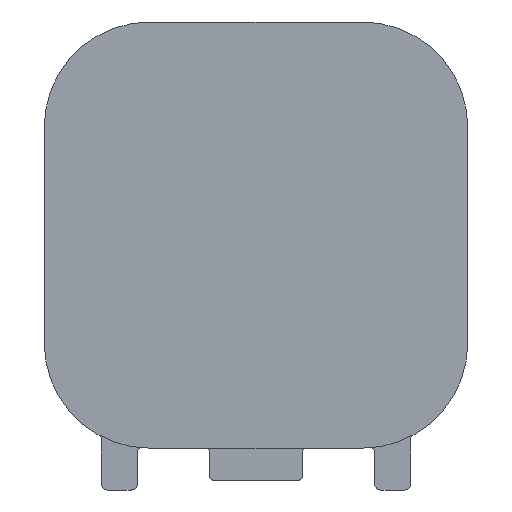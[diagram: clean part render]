
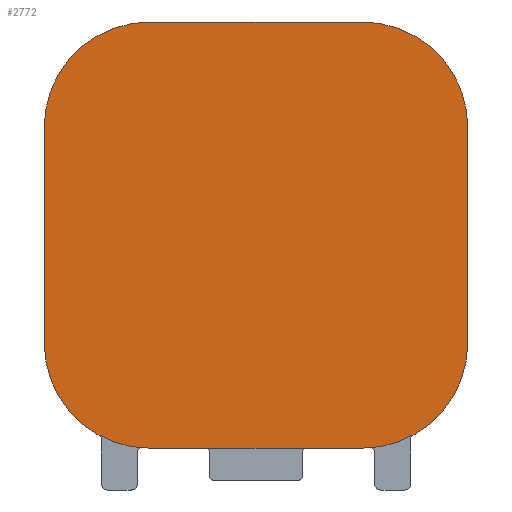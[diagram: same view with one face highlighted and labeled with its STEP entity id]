
A CAD part, front view. The second image highlights one B-rep face of the part: STEP entity #2772.
In plain terms, the highlighted planar face has unit normal (0, -1, 0).
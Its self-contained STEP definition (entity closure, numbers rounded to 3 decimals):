
#2701=CARTESIAN_POINT('Axis2P3D Location',(0.,-1.5,0.)) ;
#2706=CARTESIAN_POINT('Axis2P3D Location',(4.2,-1.5,4.25)) ;
#2710=CARTESIAN_POINT('Vertex',(8.366,-1.5,4.25)) ;
#2712=CARTESIAN_POINT('Vertex',(4.2,-1.5,8.416)) ;
#2715=CARTESIAN_POINT('Line Origine',(0.,-1.5,8.416)) ;
#2719=CARTESIAN_POINT('Vertex',(-4.2,-1.5,8.416)) ;
#2722=CARTESIAN_POINT('Axis2P3D Location',(-4.2,-1.5,4.25)) ;
#2726=CARTESIAN_POINT('Vertex',(-8.366,-1.5,4.25)) ;
#2729=CARTESIAN_POINT('Line Origine',(-8.366,-1.5,0.)) ;
#2733=CARTESIAN_POINT('Vertex',(-8.366,-1.5,-4.25)) ;
#2736=CARTESIAN_POINT('Axis2P3D Location',(-4.2,-1.5,-4.25)) ;
#2740=CARTESIAN_POINT('Vertex',(-4.2,-1.5,-8.416)) ;
#2743=CARTESIAN_POINT('Line Origine',(0.,-1.5,-8.416)) ;
#2747=CARTESIAN_POINT('Vertex',(4.2,-1.5,-8.416)) ;
#2750=CARTESIAN_POINT('Axis2P3D Location',(4.2,-1.5,-4.25)) ;
#2754=CARTESIAN_POINT('Vertex',(8.366,-1.5,-4.25)) ;
#2757=CARTESIAN_POINT('Line Origine',(8.366,-1.5,0.)) ;
#2717=VECTOR('Line Direction',#2716,1.) ;
#2731=VECTOR('Line Direction',#2730,1.) ;
#2745=VECTOR('Line Direction',#2744,1.) ;
#2759=VECTOR('Line Direction',#2758,1.) ;
#2702=DIRECTION('Axis2P3D Direction',(0.,1.,0.)) ;
#2703=DIRECTION('Axis2P3D XDirection',(0.,0.,1.)) ;
#2707=DIRECTION('Axis2P3D Direction',(0.,1.,0.)) ;
#2716=DIRECTION('Vector Direction',(-1.,0.,0.)) ;
#2723=DIRECTION('Axis2P3D Direction',(0.,1.,0.)) ;
#2730=DIRECTION('Vector Direction',(0.,0.,1.)) ;
#2737=DIRECTION('Axis2P3D Direction',(0.,1.,0.)) ;
#2744=DIRECTION('Vector Direction',(1.,0.,0.)) ;
#2751=DIRECTION('Axis2P3D Direction',(0.,1.,0.)) ;
#2758=DIRECTION('Vector Direction',(0.,0.,1.)) ;
#2704=AXIS2_PLACEMENT_3D('Plane Axis2P3D',#2701,#2702,#2703) ;
#2708=AXIS2_PLACEMENT_3D('Circle Axis2P3D',#2706,#2707,$) ;
#2724=AXIS2_PLACEMENT_3D('Circle Axis2P3D',#2722,#2723,$) ;
#2738=AXIS2_PLACEMENT_3D('Circle Axis2P3D',#2736,#2737,$) ;
#2752=AXIS2_PLACEMENT_3D('Circle Axis2P3D',#2750,#2751,$) ;
#2718=LINE('Line',#2715,#2717) ;
#2732=LINE('Line',#2729,#2731) ;
#2746=LINE('Line',#2743,#2745) ;
#2760=LINE('Line',#2757,#2759) ;
#2709=CIRCLE('generated circle',#2708,4.166) ;
#2725=CIRCLE('generated circle',#2724,4.166) ;
#2739=CIRCLE('generated circle',#2738,4.166) ;
#2753=CIRCLE('generated circle',#2752,4.166) ;
#2705=PLANE('',#2704) ;
#2714=EDGE_CURVE('',#2711,#2713,#2709,.F.) ;
#2721=EDGE_CURVE('',#2713,#2720,#2718,.T.) ;
#2728=EDGE_CURVE('',#2720,#2727,#2725,.F.) ;
#2735=EDGE_CURVE('',#2727,#2734,#2732,.F.) ;
#2742=EDGE_CURVE('',#2734,#2741,#2739,.F.) ;
#2749=EDGE_CURVE('',#2741,#2748,#2746,.T.) ;
#2756=EDGE_CURVE('',#2748,#2755,#2753,.F.) ;
#2761=EDGE_CURVE('',#2755,#2711,#2760,.T.) ;
#2763=ORIENTED_EDGE('',*,*,#2714,.T.) ;
#2764=ORIENTED_EDGE('',*,*,#2721,.T.) ;
#2765=ORIENTED_EDGE('',*,*,#2728,.T.) ;
#2766=ORIENTED_EDGE('',*,*,#2735,.T.) ;
#2767=ORIENTED_EDGE('',*,*,#2742,.T.) ;
#2768=ORIENTED_EDGE('',*,*,#2749,.T.) ;
#2769=ORIENTED_EDGE('',*,*,#2756,.T.) ;
#2770=ORIENTED_EDGE('',*,*,#2761,.T.) ;
#2762=EDGE_LOOP('',(#2763,#2764,#2765,#2766,#2767,#2768,#2769,#2770)) ;
#2711=VERTEX_POINT('',#2710) ;
#2713=VERTEX_POINT('',#2712) ;
#2720=VERTEX_POINT('',#2719) ;
#2727=VERTEX_POINT('',#2726) ;
#2734=VERTEX_POINT('',#2733) ;
#2741=VERTEX_POINT('',#2740) ;
#2748=VERTEX_POINT('',#2747) ;
#2755=VERTEX_POINT('',#2754) ;
#2772=ADVANCED_FACE('2P HP INTEFACE - KEY A',(#2771),#2705,.F.) ;
#2771=FACE_OUTER_BOUND('',#2762,.T.) ;
